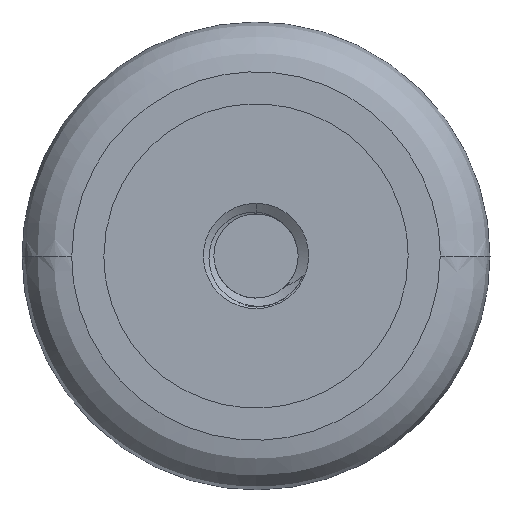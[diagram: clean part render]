
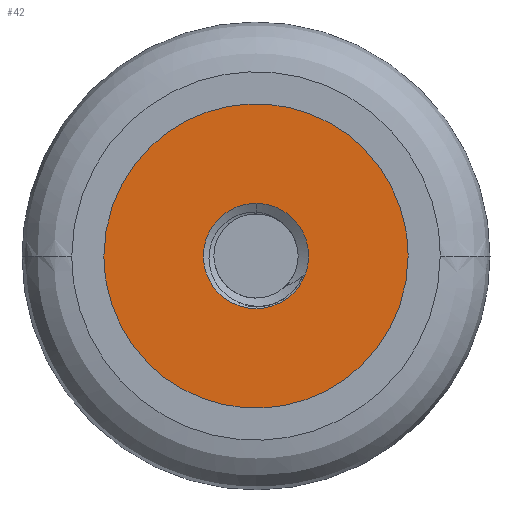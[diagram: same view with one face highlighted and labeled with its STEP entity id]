
A CAD part, front view. The second image highlights one B-rep face of the part: STEP entity #42.
In plain terms, the highlighted planar face has unit normal (0, -1, 0).
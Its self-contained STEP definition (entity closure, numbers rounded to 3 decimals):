
#14=FACE_BOUND('',#127,.T.);
#42=ADVANCED_FACE('',(#84,#14),#611,.T.);
#84=FACE_OUTER_BOUND('',#126,.T.);
#126=EDGE_LOOP('',(#248,#249));
#127=EDGE_LOOP('',(#250,#251));
#248=ORIENTED_EDGE('',*,*,#388,.F.);
#249=ORIENTED_EDGE('',*,*,#408,.F.);
#250=ORIENTED_EDGE('',*,*,#413,.F.);
#251=ORIENTED_EDGE('',*,*,#378,.T.);
#378=EDGE_CURVE('',#588,#587,#498,.T.);
#388=EDGE_CURVE('',#595,#596,#506,.T.);
#408=EDGE_CURVE('',#596,#595,#523,.T.);
#413=EDGE_CURVE('',#588,#587,#527,.T.);
#498=(
BOUNDED_CURVE()
B_SPLINE_CURVE(2,(#3734,#3735,#3736,#3737,#3738),.UNSPECIFIED.,.F.,.F.)
B_SPLINE_CURVE_WITH_KNOTS((3,2,3),(-7.069,-3.534,
0.),.UNSPECIFIED.)
CURVE()
GEOMETRIC_REPRESENTATION_ITEM()
RATIONAL_B_SPLINE_CURVE((1.,0.707,1.,0.707,1.))
REPRESENTATION_ITEM('')
);
#506=(
BOUNDED_CURVE()
B_SPLINE_CURVE(2,(#3770,#3771,#3772,#3773,#3774),.UNSPECIFIED.,.F.,.F.)
B_SPLINE_CURVE_WITH_KNOTS((3,2,3),(0.,10.21,20.42),
 .UNSPECIFIED.)
CURVE()
GEOMETRIC_REPRESENTATION_ITEM()
RATIONAL_B_SPLINE_CURVE((1.,0.707,1.,0.707,1.))
REPRESENTATION_ITEM('')
);
#523=(
BOUNDED_CURVE()
B_SPLINE_CURVE(2,(#3845,#3846,#3847,#3848,#3849),.UNSPECIFIED.,.F.,.F.)
B_SPLINE_CURVE_WITH_KNOTS((3,2,3),(0.,10.21,20.42),
 .UNSPECIFIED.)
CURVE()
GEOMETRIC_REPRESENTATION_ITEM()
RATIONAL_B_SPLINE_CURVE((1.,0.707,1.,0.707,1.))
REPRESENTATION_ITEM('')
);
#527=(
BOUNDED_CURVE()
B_SPLINE_CURVE(2,(#3873,#3874,#3875,#3876,#3877),.UNSPECIFIED.,.F.,.F.)
B_SPLINE_CURVE_WITH_KNOTS((3,2,3),(0.,3.534,7.069),
 .UNSPECIFIED.)
CURVE()
GEOMETRIC_REPRESENTATION_ITEM()
RATIONAL_B_SPLINE_CURVE((1.,0.707,1.,0.707,1.))
REPRESENTATION_ITEM('')
);
#587=VERTEX_POINT('',#3067);
#588=VERTEX_POINT('',#3068);
#595=VERTEX_POINT('',#3075);
#596=VERTEX_POINT('',#3076);
#611=PLANE('',#758);
#758=AXIS2_PLACEMENT_3D('',#1476,#784,$);
#784=DIRECTION('',(0.,-1.,0.));
#1476=CARTESIAN_POINT('',(7.8,-8.,-7.8));
#3067=CARTESIAN_POINT('',(0.,-8.,2.25));
#3068=CARTESIAN_POINT('',(0.,-8.,-2.25));
#3075=CARTESIAN_POINT('',(-6.5,-8.,0.));
#3076=CARTESIAN_POINT('',(6.5,-8.,0.));
#3734=CARTESIAN_POINT('',(0.,-8.,-2.25));
#3735=CARTESIAN_POINT('',(-2.25,-8.,-2.25));
#3736=CARTESIAN_POINT('',(-2.25,-8.,0.));
#3737=CARTESIAN_POINT('',(-2.25,-8.,2.25));
#3738=CARTESIAN_POINT('',(0.,-8.,2.25));
#3770=CARTESIAN_POINT('',(-6.5,-8.,0.));
#3771=CARTESIAN_POINT('',(-6.5,-8.,6.5));
#3772=CARTESIAN_POINT('',(0.,-8.,6.5));
#3773=CARTESIAN_POINT('',(6.5,-8.,6.5));
#3774=CARTESIAN_POINT('',(6.5,-8.,0.));
#3845=CARTESIAN_POINT('',(6.5,-8.,0.));
#3846=CARTESIAN_POINT('',(6.5,-8.,-6.5));
#3847=CARTESIAN_POINT('',(0.,-8.,-6.5));
#3848=CARTESIAN_POINT('',(-6.5,-8.,-6.5));
#3849=CARTESIAN_POINT('',(-6.5,-8.,0.));
#3873=CARTESIAN_POINT('',(0.,-8.,-2.25));
#3874=CARTESIAN_POINT('',(2.25,-8.,-2.25));
#3875=CARTESIAN_POINT('',(2.25,-8.,0.));
#3876=CARTESIAN_POINT('',(2.25,-8.,2.25));
#3877=CARTESIAN_POINT('',(0.,-8.,2.25));
